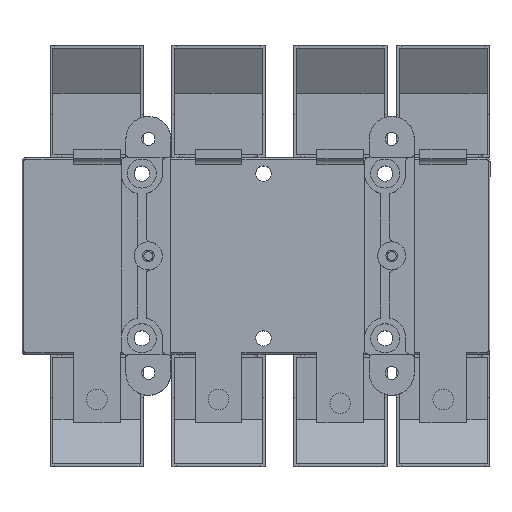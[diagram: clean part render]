
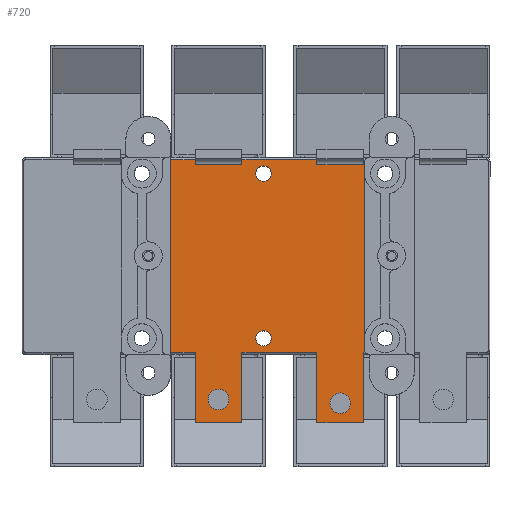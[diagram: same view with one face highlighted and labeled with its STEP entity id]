
A CAD part, top view. The second image highlights one B-rep face of the part: STEP entity #720.
In plain terms, the highlighted planar face has unit normal (0, 0, 1).
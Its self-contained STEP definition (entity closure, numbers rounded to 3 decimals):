
#178=FACE_BOUND('',#1937,.T.);
#179=FACE_BOUND('',#1938,.T.);
#180=FACE_BOUND('',#1939,.T.);
#181=FACE_BOUND('',#1940,.T.);
#182=FACE_BOUND('',#1941,.T.);
#720=ADVANCED_FACE('',(#178,#179,#180,#181,#182),#1060,.F.);
#1060=PLANE('',#9565);
#1937=EDGE_LOOP('',(#6202));
#1938=EDGE_LOOP('',(#6203));
#1939=EDGE_LOOP('',(#6204));
#1940=EDGE_LOOP('',(#6205));
#1941=EDGE_LOOP('',(#6206,#6207,#6208,#6209,#6210,#6211,#6212,#6213,#6214,
#6215,#6216,#6217,#6218,#6219,#6220,#6221,#6222,#6223,#6224,#6225,#6226,
#6227));
#2174=LINE('',#12490,#3166);
#2177=LINE('',#12501,#3169);
#2179=LINE('',#12505,#3171);
#2180=LINE('',#12512,#3172);
#2185=LINE('',#12529,#3177);
#2195=LINE('',#12557,#3187);
#2201=LINE('',#12572,#3193);
#2204=LINE('',#12583,#3196);
#2206=LINE('',#12589,#3198);
#2208=LINE('',#12598,#3200);
#2219=LINE('',#12630,#3211);
#2222=LINE('',#12639,#3214);
#2797=LINE('',#14016,#3789);
#2907=LINE('',#14522,#3899);
#2942=LINE('',#14599,#3934);
#2943=LINE('',#14600,#3935);
#2944=LINE('',#14601,#3936);
#2945=LINE('',#14602,#3937);
#2946=LINE('',#14603,#3938);
#2947=LINE('',#14604,#3939);
#3166=VECTOR('',#9996,1.);
#3169=VECTOR('',#10007,1.);
#3171=VECTOR('',#10011,1.);
#3172=VECTOR('',#10018,1.);
#3177=VECTOR('',#10031,1.);
#3187=VECTOR('',#10061,1.);
#3193=VECTOR('',#10073,1.);
#3196=VECTOR('',#10084,1.);
#3198=VECTOR('',#10090,1.);
#3200=VECTOR('',#10098,1.);
#3211=VECTOR('',#10125,1.);
#3214=VECTOR('',#10138,1.);
#3789=VECTOR('',#11365,1.);
#3899=VECTOR('',#11831,1.);
#3934=VECTOR('',#11926,1.);
#3935=VECTOR('',#11927,1.);
#3936=VECTOR('',#11928,1.);
#3937=VECTOR('',#11929,1.);
#3938=VECTOR('',#11930,1.);
#3939=VECTOR('',#11931,1.);
#6202=ORIENTED_EDGE('',*,*,#8576,.F.);
#6203=ORIENTED_EDGE('',*,*,#8577,.F.);
#6204=ORIENTED_EDGE('',*,*,#7573,.F.);
#6205=ORIENTED_EDGE('',*,*,#7612,.F.);
#6206=ORIENTED_EDGE('',*,*,#7603,.F.);
#6207=ORIENTED_EDGE('',*,*,#7581,.T.);
#6208=ORIENTED_EDGE('',*,*,#8578,.T.);
#6209=ORIENTED_EDGE('',*,*,#7638,.F.);
#6210=ORIENTED_EDGE('',*,*,#7642,.F.);
#6211=ORIENTED_EDGE('',*,*,#7622,.F.);
#6212=ORIENTED_EDGE('',*,*,#8579,.T.);
#6213=ORIENTED_EDGE('',*,*,#8324,.F.);
#6214=ORIENTED_EDGE('',*,*,#8580,.T.);
#6215=ORIENTED_EDGE('',*,*,#7618,.F.);
#6216=ORIENTED_EDGE('',*,*,#7610,.F.);
#6217=ORIENTED_EDGE('',*,*,#7615,.F.);
#6218=ORIENTED_EDGE('',*,*,#8581,.T.);
#6219=ORIENTED_EDGE('',*,*,#7578,.T.);
#6220=ORIENTED_EDGE('',*,*,#7571,.T.);
#6221=ORIENTED_EDGE('',*,*,#7576,.T.);
#6222=ORIENTED_EDGE('',*,*,#8582,.T.);
#6223=ORIENTED_EDGE('',*,*,#8483,.T.);
#6224=ORIENTED_EDGE('',*,*,#8534,.T.);
#6225=ORIENTED_EDGE('',*,*,#8479,.T.);
#6226=ORIENTED_EDGE('',*,*,#8583,.T.);
#6227=ORIENTED_EDGE('',*,*,#7589,.T.);
#6657=VERTEX_POINT('',#12489);
#6658=VERTEX_POINT('',#12491);
#6659=VERTEX_POINT('',#12495);
#6661=VERTEX_POINT('',#12500);
#6663=VERTEX_POINT('',#12506);
#6664=VERTEX_POINT('',#12510);
#6666=VERTEX_POINT('',#12513);
#6672=VERTEX_POINT('',#12527);
#6674=VERTEX_POINT('',#12530);
#6687=VERTEX_POINT('',#12571);
#6688=VERTEX_POINT('',#12573);
#6689=VERTEX_POINT('',#12577);
#6691=VERTEX_POINT('',#12582);
#6692=VERTEX_POINT('',#12586);
#6697=VERTEX_POINT('',#12597);
#6698=VERTEX_POINT('',#12599);
#6706=VERTEX_POINT('',#12621);
#6710=VERTEX_POINT('',#12629);
#7185=VERTEX_POINT('',#14004);
#7188=VERTEX_POINT('',#14017);
#7293=VERTEX_POINT('',#14400);
#7294=VERTEX_POINT('',#14402);
#7297=VERTEX_POINT('',#14409);
#7298=VERTEX_POINT('',#14411);
#7344=VERTEX_POINT('',#14596);
#7345=VERTEX_POINT('',#14598);
#7571=EDGE_CURVE('',#6658,#6657,#2174,.T.);
#7573=EDGE_CURVE('',#6659,#6659,#8641,.T.);
#7576=EDGE_CURVE('',#6657,#6661,#2177,.T.);
#7578=EDGE_CURVE('',#6663,#6658,#2179,.T.);
#7581=EDGE_CURVE('',#6666,#6664,#2180,.T.);
#7589=EDGE_CURVE('',#6674,#6672,#2185,.T.);
#7603=EDGE_CURVE('',#6666,#6672,#2195,.T.);
#7610=EDGE_CURVE('',#6687,#6688,#2201,.T.);
#7612=EDGE_CURVE('',#6689,#6689,#8653,.T.);
#7615=EDGE_CURVE('',#6691,#6687,#2204,.T.);
#7618=EDGE_CURVE('',#6688,#6692,#2206,.T.);
#7622=EDGE_CURVE('',#6697,#6698,#2208,.T.);
#7638=EDGE_CURVE('',#6710,#6706,#2219,.T.);
#7642=EDGE_CURVE('',#6698,#6710,#2222,.T.);
#8324=EDGE_CURVE('',#7185,#7188,#2797,.T.);
#8479=EDGE_CURVE('',#7294,#7293,#8847,.T.);
#8483=EDGE_CURVE('',#7298,#7297,#8849,.T.);
#8534=EDGE_CURVE('',#7297,#7294,#2907,.T.);
#8576=EDGE_CURVE('',#7344,#7344,#8876,.T.);
#8577=EDGE_CURVE('',#7345,#7345,#8877,.T.);
#8578=EDGE_CURVE('',#6664,#6706,#2942,.T.);
#8579=EDGE_CURVE('',#6697,#7188,#2943,.T.);
#8580=EDGE_CURVE('',#7185,#6692,#2944,.T.);
#8581=EDGE_CURVE('',#6691,#6663,#2945,.T.);
#8582=EDGE_CURVE('',#6661,#7298,#2946,.T.);
#8583=EDGE_CURVE('',#7293,#6674,#2947,.T.);
#8641=CIRCLE('',#8985,5.5);
#8653=CIRCLE('',#9010,5.5);
#8847=CIRCLE('',#9498,2.);
#8849=CIRCLE('',#9501,2.);
#8876=CIRCLE('',#9563,4.1);
#8877=CIRCLE('',#9564,4.1);
#8985=AXIS2_PLACEMENT_3D('',#12494,#10000,#10001);
#9010=AXIS2_PLACEMENT_3D('',#12576,#10077,#10078);
#9498=AXIS2_PLACEMENT_3D('',#14401,#11725,#11726);
#9501=AXIS2_PLACEMENT_3D('',#14410,#11733,#11734);
#9563=AXIS2_PLACEMENT_3D('',#14595,#11922,#11923);
#9564=AXIS2_PLACEMENT_3D('',#14597,#11924,#11925);
#9565=AXIS2_PLACEMENT_3D('',#14605,#11932,#11933);
#9996=DIRECTION('',(1.,0.,0.));
#10000=DIRECTION('',(0.,0.,1.));
#10001=DIRECTION('',(-1.,0.,0.));
#10007=DIRECTION('',(0.,1.,0.));
#10011=DIRECTION('',(0.,-1.,0.));
#10018=DIRECTION('',(0.,1.,0.));
#10031=DIRECTION('',(0.,-1.,0.));
#10061=DIRECTION('',(1.,0.,0.));
#10073=DIRECTION('',(-1.,0.,0.));
#10077=DIRECTION('',(0.,0.,1.));
#10078=DIRECTION('',(-1.,0.,0.));
#10084=DIRECTION('',(0.,-1.,0.));
#10090=DIRECTION('',(0.,1.,0.));
#10098=DIRECTION('',(0.,-1.,0.));
#10125=DIRECTION('',(0.,1.,0.));
#10138=DIRECTION('',(1.,0.,0.));
#11365=DIRECTION('',(0.,1.,0.));
#11725=DIRECTION('',(0.,0.,-1.));
#11726=DIRECTION('',(-1.,0.,0.));
#11733=DIRECTION('',(0.,0.,-1.));
#11734=DIRECTION('',(-1.,0.,0.));
#11831=DIRECTION('',(0.,1.,0.));
#11922=DIRECTION('',(0.,0.,1.));
#11923=DIRECTION('',(-1.,0.,0.));
#11924=DIRECTION('',(0.,0.,1.));
#11925=DIRECTION('',(-1.,0.,0.));
#11926=DIRECTION('',(-1.,0.,0.));
#11927=DIRECTION('',(-1.,0.,0.));
#11928=DIRECTION('',(1.,0.,0.));
#11929=DIRECTION('',(1.,0.,0.));
#11930=DIRECTION('',(1.,0.,0.));
#11931=DIRECTION('',(-1.,0.,0.));
#11932=DIRECTION('',(0.,0.,-1.));
#11933=DIRECTION('',(-1.,0.,0.));
#12489=CARTESIAN_POINT('',(-15.,-89.152,0.));
#12490=CARTESIAN_POINT('',(-40.,-89.152,0.));
#12491=CARTESIAN_POINT('',(-40.,-89.152,0.));
#12494=CARTESIAN_POINT('',(-27.5,-78.652,0.));
#12495=CARTESIAN_POINT('',(-33.,-78.652,0.));
#12500=CARTESIAN_POINT('',(-15.,-51.5,0.));
#12501=CARTESIAN_POINT('',(-15.,-87.,0.));
#12505=CARTESIAN_POINT('',(-40.,87.,0.));
#12506=CARTESIAN_POINT('',(-40.,-51.5,0.));
#12510=CARTESIAN_POINT('',(-40.,51.5,0.));
#12512=CARTESIAN_POINT('',(-40.,-50.5,0.));
#12513=CARTESIAN_POINT('',(-40.,48.848,0.));
#12527=CARTESIAN_POINT('',(-15.,48.848,0.));
#12529=CARTESIAN_POINT('',(-15.,-50.5,0.));
#12530=CARTESIAN_POINT('',(-15.,51.5,0.));
#12557=CARTESIAN_POINT('',(-40.,48.848,0.));
#12571=CARTESIAN_POINT('',(-80.,-89.152,0.));
#12572=CARTESIAN_POINT('',(-80.,-89.152,0.));
#12573=CARTESIAN_POINT('',(-105.,-89.152,0.));
#12576=CARTESIAN_POINT('',(-92.5,-76.652,0.));
#12577=CARTESIAN_POINT('',(-98.,-76.652,0.));
#12582=CARTESIAN_POINT('',(-80.,-51.5,0.));
#12583=CARTESIAN_POINT('',(-80.,87.,0.));
#12586=CARTESIAN_POINT('',(-105.,-51.5,0.));
#12589=CARTESIAN_POINT('',(-105.,-87.,0.));
#12597=CARTESIAN_POINT('',(-105.,51.5,0.));
#12598=CARTESIAN_POINT('',(-105.,-50.5,0.));
#12599=CARTESIAN_POINT('',(-105.,48.848,0.));
#12621=CARTESIAN_POINT('',(-80.,51.5,0.));
#12629=CARTESIAN_POINT('',(-80.,48.848,0.));
#12630=CARTESIAN_POINT('',(-80.,-50.5,0.));
#12639=CARTESIAN_POINT('',(-105.,48.848,0.));
#14004=CARTESIAN_POINT('',(-118.,-51.5,0.));
#14016=CARTESIAN_POINT('',(-118.,62.5,0.));
#14017=CARTESIAN_POINT('',(-118.,51.5,0.));
#14400=CARTESIAN_POINT('',(-14.232,51.5,0.));
#14401=CARTESIAN_POINT('',(-12.5,50.5,0.));
#14402=CARTESIAN_POINT('',(-14.5,50.5,0.));
#14409=CARTESIAN_POINT('',(-14.5,-50.5,0.));
#14410=CARTESIAN_POINT('',(-12.5,-50.5,0.));
#14411=CARTESIAN_POINT('',(-14.232,-51.5,0.));
#14522=CARTESIAN_POINT('',(-14.5,62.5,0.));
#14595=CARTESIAN_POINT('',(-68.5,-44.,0.));
#14596=CARTESIAN_POINT('',(-72.6,-44.,0.));
#14597=CARTESIAN_POINT('',(-68.5,44.,0.));
#14598=CARTESIAN_POINT('',(-72.6,44.,0.));
#14599=CARTESIAN_POINT('',(-195.5,51.5,0.));
#14600=CARTESIAN_POINT('',(-195.5,51.5,0.));
#14601=CARTESIAN_POINT('',(-12.5,-51.5,0.));
#14602=CARTESIAN_POINT('',(-12.5,-51.5,0.));
#14603=CARTESIAN_POINT('',(-12.5,-51.5,0.));
#14604=CARTESIAN_POINT('',(-195.5,51.5,0.));
#14605=CARTESIAN_POINT('',(50.5,-50.5,0.));
